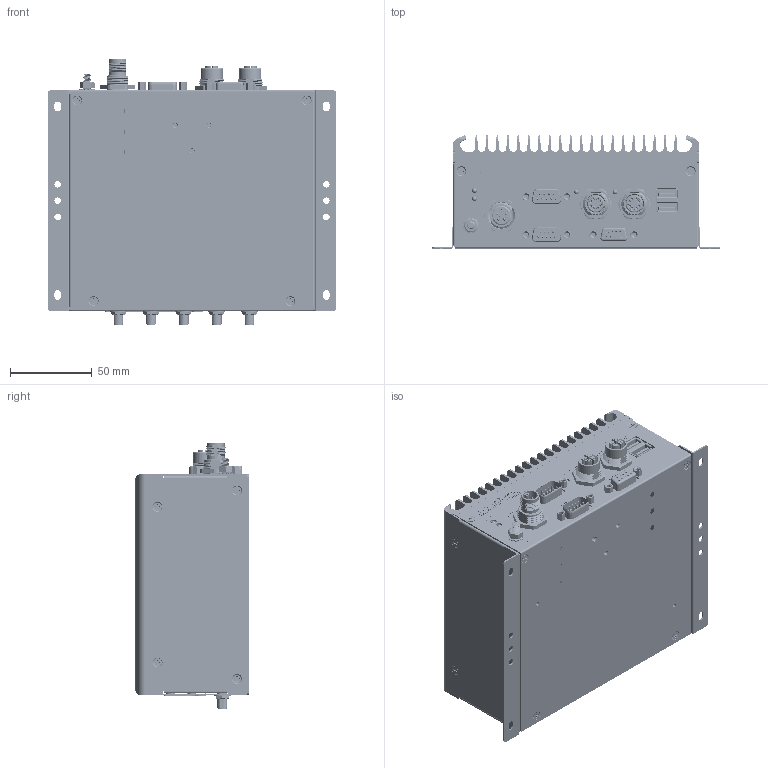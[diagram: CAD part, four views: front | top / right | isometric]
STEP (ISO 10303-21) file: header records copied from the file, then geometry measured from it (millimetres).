
FILE_DESCRIPTION((''),'2;1');
FILE_NAME('IBOX-600-M12_CHASSIS','2024-07-22T08:17:52',('James Hsu'),(''),'CREO PARAMETRIC BY PTC INC, 2020184','CREO PARAMETRIC BY PTC INC, 2020184','');
FILE_SCHEMA(('CONFIG_CONTROL_DESIGN'));
Products named in the file (1): IBOX-600-M12_CHASSIS
Bounding box: 176 x 69 x 162.6 mm (x, y, z)
Volume: 383284.7 mm3; surface area: 363236.3 mm2
Topology: 82 solids, 149 shells, 25923 faces, 73140 edges, 48094 vertices
Faces by surface type: plane 16729, cylinder 5777, cone 1147, extrusion 1078, bspline 838, torus 308, sphere 46
Entity records: 981447 total; most frequent: CARTESIAN_POINT 318014, ORIENTED_EDGE 145931, DIRECTION 124386, EDGE_CURVE 72994, VECTOR 53970, LINE 52892, VERTEX_POINT 48089, AXIS2_PLACEMENT_3D 35208
